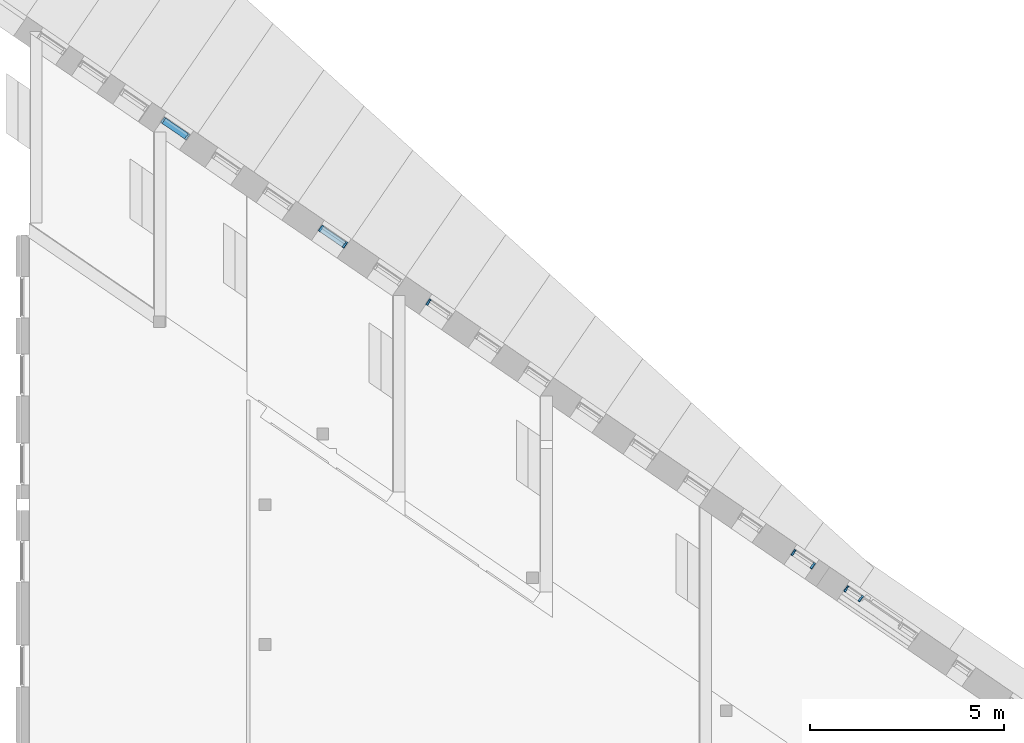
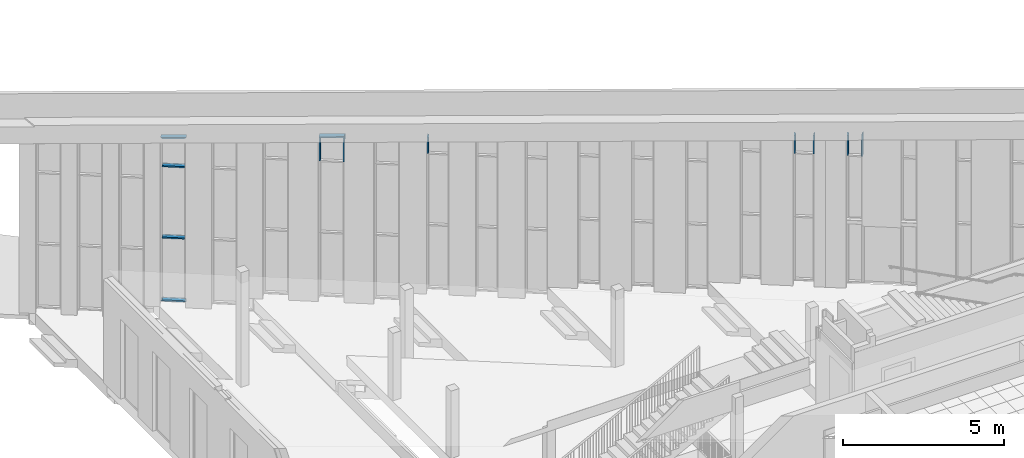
# One storey, part 30 of 79: 13 members, 5 elements without a shape of their own.
"""IFC2X3 building model written with IfcOpenShell, lengths in millimetres."""

from ifc_helpers import new_model, entity, si_unit, converted_unit, derived_unit, money_unit, direction, frame, origin_with_axes, place, context, subcontext, project, spatial, faceted_brep, material, type_object, element, aggregate, save


model = new_model("IFC2X3")

# Units and contexts
model_context = context("Model", 3, precision=0.01, world=origin_with_axes(), true_north=direction((0.0, 1.0)))
body_context = subcontext(model_context, "Body", "Model", "MODEL_VIEW")
ifc_project = project(units=[si_unit("LENGTHUNIT", "METRE", prefix="MILLI"), si_unit("AREAUNIT", "SQUARE_METRE"), si_unit("VOLUMEUNIT", "CUBIC_METRE"), converted_unit("PLANEANGLEUNIT", "DEGREE", entity("IfcPlaneAngleMeasure", 0.0174532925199), si_unit("PLANEANGLEUNIT", "RADIAN"), dimensions=[0, 0, 0, 0, 0, 0, 0]), si_unit("SOLIDANGLEUNIT", "STERADIAN"), money_unit("EUR"), converted_unit("TIMEUNIT", "Year", entity("IfcTimeMeasure", 31556926.0), si_unit("TIMEUNIT", "SECOND"), dimensions=[0, 0, 1, 0, 0, 0, 0]), si_unit("MASSUNIT", "GRAM", prefix="KILO"), si_unit("THERMODYNAMICTEMPERATUREUNIT", "DEGREE_CELSIUS"), si_unit("LUMINOUSINTENSITYUNIT", "LUMEN"), si_unit("ENERGYUNIT", "JOULE", prefix="MEGA"), derived_unit("THERMALCONDUCTANCEUNIT", [(si_unit("POWERUNIT", "WATT"), 1), (si_unit("LENGTHUNIT", "METRE"), -1), (si_unit("THERMODYNAMICTEMPERATUREUNIT", "KELVIN"), -1)]), derived_unit("SPECIFICHEATCAPACITYUNIT", [(si_unit("ENERGYUNIT", "JOULE"), 1), (si_unit("MASSUNIT", "GRAM", prefix="KILO"), -1), (si_unit("THERMODYNAMICTEMPERATUREUNIT", "KELVIN"), -1)]), derived_unit("MASSDENSITYUNIT", [(si_unit("MASSUNIT", "GRAM", prefix="KILO"), 1), (si_unit("VOLUMEUNIT", "CUBIC_METRE"), -1)])], contexts=[model_context])

# Site, building, storey
site_placement = place(None, origin_with_axes())
site = spatial("IfcSite", under=ifc_project, at=site_placement, Name="L.Koidula tn 11b", CompositionType="ELEMENT")
building_placement = place(site_placement, origin_with_axes())
building = spatial("IfcBuilding", under=site, at=building_placement, Name="Rakvere Riigigümnaasium", CompositionType="ELEMENT")
storey_placement = place(building_placement, frame((0.0, 0.0, 3720.0), z_axis=(0.0, 0.0, 1.0), x_axis=(1.0, 0.0, 0.0)))
storey = spatial("IfcBuildingStorey", under=building, at=storey_placement, Name="2.korrus +3,72", CompositionType="ELEMENT", Elevation=3720.0)

# Curtain wall, members
curtain_wall_type = type_object("IfcCurtainWallType", Name="Curtain Wall Type", PredefinedType="NOTDEFINED")
curtain_wall_1_placement = place(storey_placement, frame((61972.2494244, 33972.9766299, -1395.00007094), z_axis=(0.0, 0.0, 1.0), x_axis=(1.0, 0.0, 0.0)))
curtain_wall_1 = element("IfcCurtainWall", 1, at=curtain_wall_1_placement, inside=storey, type_object=curtain_wall_type, Name="KLF-06-18")
ifc_material = material(Name="Alumiiniumprofiil (RAL 7021)")
member_type_1 = type_object("IfcMemberType", Name="Transom Frame 50 x 170", PredefinedType="MULLION")
member_1_placement = place(curtain_wall_1_placement, frame((-329.847602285, 226.234905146, 5100.00015279), z_axis=(0.824666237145, -0.565619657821, 0.0), x_axis=(0.0, 0.0, 1.0)))
member_1 = element("IfcMember", 2, at=member_1_placement, type_object=member_type_1, material=ifc_material, Name="KLF-06-18-Profiilid", ObjectType="MULLION", context=body_context, shape_type="Brep", body=[
    faceted_brep([(-12.0, 26.0, 749.969428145), (-12.0, -26.0, 749.96942883), (-25.0, -26.0, 749.96942883), (-25.0, -46.0, 749.969429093), (25.0, -46.0, 749.969429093), (25.0, -26.0, 749.96942883), (12.0, -26.0, 749.96942883), (12.0, 26.0, 749.969428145), (25.0, 26.0, 749.969428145), (25.0, 124.0, 749.969426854), (-25.0, 124.0, 749.969426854), (-25.0, 26.0, 749.969428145), (-12.0, 26.0, 50.0007288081), (-12.0, -26.0, 49.9992712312), (-25.0, -26.0, 49.9992712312), (-25.0, -46.0, 49.9987106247), (25.0, -46.0, 49.9987106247), (25.0, -26.0, 49.9992712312), (12.0, -26.0, 49.9992712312), (12.0, 26.0, 50.0007288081), (25.0, 26.0, 50.0007288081), (25.0, 124.0, 50.00347578), (-25.0, 124.0, 50.00347578), (-25.0, 26.0, 50.0007288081)], [[[0, 1, 2, 3, 4, 5, 6, 7, 8, 9, 10, 11]], [[0, 12, 13, 1]], [[1, 13, 14, 2]], [[14, 15, 3, 2]], [[4, 3, 15, 16]], [[17, 5, 4, 16]], [[5, 17, 18, 6]], [[7, 6, 18, 19]], [[8, 7, 19, 20]], [[8, 20, 21, 9]], [[10, 9, 21, 22]], [[11, 10, 22, 23]], [[11, 23, 12, 0]], [[13, 12, 23, 22, 21, 20, 19, 18, 17, 16, 15, 14]]]),
])
member_2_placement = place(curtain_wall_1_placement, frame((-329.768893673, 226.180920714, 2400.00015279), z_axis=(0.824666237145, -0.565619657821, 0.0), x_axis=(0.0, 0.0, 1.0)))
member_2 = element("IfcMember", 3, at=member_2_placement, type_object=member_type_1, material=ifc_material, Name="KLF-06-18-Profiilid", ObjectType="MULLION", context=body_context, shape_type="Brep", body=[
    faceted_brep([(-12.0, 26.0, 749.873849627), (-12.0, -26.0, 749.873852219), (-25.0, -26.0, 749.873852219), (-25.0, -46.0, 749.873853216), (25.0, -46.0, 749.873853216), (25.0, -26.0, 749.873852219), (12.0, -26.0, 749.873852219), (12.0, 26.0, 749.873849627), (25.0, 26.0, 749.873849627), (25.0, 124.0, 749.873844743), (-25.0, 124.0, 749.873844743), (-25.0, 26.0, 749.873849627), (-12.0, 26.0, 50.0009191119), (-12.0, -26.0, 49.9990809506), (-25.0, -26.0, 49.9990809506), (-25.0, -46.0, 49.9983739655), (25.0, -46.0, 49.9983739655), (25.0, -26.0, 49.9990809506), (12.0, -26.0, 49.9990809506), (12.0, 26.0, 50.0009191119), (25.0, 26.0, 50.0009191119), (25.0, 124.0, 50.0043833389), (-25.0, 124.0, 50.0043833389), (-25.0, 26.0, 50.0009191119)], [[[0, 1, 2, 3, 4, 5, 6, 7, 8, 9, 10, 11]], [[0, 12, 13, 1]], [[1, 13, 14, 2]], [[14, 15, 3, 2]], [[4, 3, 15, 16]], [[17, 5, 4, 16]], [[5, 17, 18, 6]], [[7, 6, 18, 19]], [[8, 7, 19, 20]], [[8, 20, 21, 9]], [[10, 9, 21, 22]], [[11, 10, 22, 23]], [[11, 23, 12, 0]], [[13, 12, 23, 22, 21, 20, 19, 18, 17, 16, 15, 14]]]),
])
member_type_2 = type_object("IfcMemberType", Name="Boundary Frame 50 x 170", PredefinedType="MULLION")
member_3_placement = place(curtain_wall_1_placement, frame((-329.703060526, 226.135767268, 0.0), z_axis=(0.824666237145, -0.565619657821, 0.0), x_axis=(0.0, 0.0, 1.0)))
member_3 = element("IfcMember", 4, at=member_3_placement, type_object=member_type_2, material=ifc_material, Name="KLF-06-27-Profiilid", ObjectType="MULLION", context=body_context, shape_type="Brep", body=[
    faceted_brep([(37.0, 26.0, 762.794020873), (50.0, 26.0, 749.794020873), (50.0, 124.0, 749.794020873), (0.0, 124.0, 799.794020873), (0.0, -46.0, 799.794020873), (50.0, -46.0, 749.794020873), (50.0, -26.0, 749.794020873), (37.0, -26.0, 762.794020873), (37.0, 26.0, 36.9987693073), (50.0, 26.0, 49.9983369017), (50.0, 124.0, 49.9983369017), (0.0, 124.0, 0.0), (0.0, -46.0, 0.0), (50.0, -46.0, 49.9983369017), (50.0, -26.0, 49.9983369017), (37.0, -26.0, 36.9987693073)], [[[0, 1, 2, 3, 4, 5, 6, 7]], [[0, 8, 9, 1]], [[9, 10, 2, 1]], [[2, 10, 11, 3]], [[3, 11, 12, 4]], [[4, 12, 13, 5]], [[6, 5, 13, 14]], [[14, 15, 7, 6]], [[7, 15, 8, 0]], [[8, 15, 14, 13, 12, 11, 10, 9]]]),
])
member_4_placement = place(curtain_wall_1_placement, frame((329.86018845, -226.243537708, 6233.62446743), z_axis=(-0.823354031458, 0.564719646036, -0.0563902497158), x_axis=(0.0465031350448, -0.0318954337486, -0.998408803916)))
member_4 = element("IfcMember", 5, at=member_4_placement, type_object=member_type_2, material=ifc_material, Name="KLF-06-31-Profiilid", ObjectType="MULLION", context=body_context, shape_type="Brep", body=[
    faceted_brep([(37.0, 26.0, 766.304752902), (50.0, 26.0, 754.017931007), (50.0, 124.0, 754.017931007), (0.0, 124.0, 801.274938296), (0.0, -46.0, 801.274938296), (50.0, -46.0, 754.017931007), (50.0, -26.0, 754.017931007), (37.0, -26.0, 766.304752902), (37.0, 26.0, 39.1487330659), (50.0, 26.0, 52.9036933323), (50.0, 124.0, 52.9036933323), (0.0, 124.0, 0.0), (0.0, -46.0, 0.0), (50.0, -46.0, 52.9036933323), (50.0, -26.0, 52.9036933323), (37.0, -26.0, 39.1487330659)], [[[0, 1, 2, 3, 4, 5, 6, 7]], [[0, 8, 9, 1]], [[9, 10, 2, 1]], [[2, 10, 11, 3]], [[3, 11, 12, 4]], [[4, 12, 13, 5]], [[6, 5, 13, 14]], [[14, 15, 7, 6]], [[7, 15, 8, 0]], [[8, 15, 14, 13, 12, 11, 10, 9]]]),
])
aggregate(curtain_wall_1, [member_1, member_3, member_2, member_4])

curtain_wall_2_placement = place(storey_placement, frame((66033.4417184, 31187.4994723, -930.00009489), z_axis=(0.0, 0.0, 1.0), x_axis=(1.0, 0.0, 0.0)))
curtain_wall_2 = element("IfcCurtainWall", 6, at=curtain_wall_2_placement, inside=storey, type_object=curtain_wall_type, Name="KLF-06-15")
member_5_placement = place(curtain_wall_2_placement, frame((329.371256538, -225.908190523, 5100.00018486), z_axis=(-0.000147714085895, 0.000101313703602, 0.999999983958), x_axis=(-0.824666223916, 0.565619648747, -0.000179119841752)))
member_5 = element("IfcMember", 7, at=member_5_placement, type_object=member_type_2, material=ifc_material, Name="KLF-06-34-Profiilid", ObjectType="MULLION", context=body_context, shape_type="Brep", body=[
    faceted_brep([(37.0, 26.0, 793.647730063), (50.0, 26.0, 793.647578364), (50.0, 124.0, 793.638596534), (0.0, 124.0, 793.638596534), (0.0, -46.0, 793.65417726), (50.0, -46.0, 793.65417726), (50.0, -26.0, 793.652344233), (37.0, -26.0, 793.652386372), (37.0, 26.0, -0.000280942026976), (50.0, 26.0, -0.000280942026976), (50.0, 124.0, -0.000280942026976), (0.0, 124.0, -0.000280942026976), (0.0, -46.0, -0.000280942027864), (50.0, -46.0, -0.000280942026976), (50.0, -26.0, -0.000280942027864), (37.0, -26.0, -0.000280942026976)], [[[0, 1, 2, 3, 4, 5, 6, 7]], [[0, 8, 9, 1]], [[9, 10, 2, 1]], [[10, 11, 3, 2]], [[3, 11, 12, 4]], [[12, 13, 5, 4]], [[6, 5, 13, 14]], [[14, 15, 7, 6]], [[7, 15, 8, 0]], [[8, 15, 14, 13, 12, 11, 10, 9]]]),
])
member_6_placement = place(curtain_wall_2_placement, frame((-329.583181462, 226.053544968, 5100.00018486), z_axis=(0.0, 0.0, 1.0), x_axis=(-0.824666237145, 0.565619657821, 0.0)))
member_6 = element("IfcMember", 8, at=member_6_placement, type_object=member_type_2, material=ifc_material, Name="KLF-06-36-Profiilid", ObjectType="MULLION", context=body_context, shape_type="Brep", body=[
    faceted_brep([(-37.0, 26.0, 881.298915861), (-37.0, -26.0, 881.298915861), (-50.0, -26.0, 869.048648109), (-50.0, -46.0, 869.048648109), (0.0, -46.0, 916.165062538), (0.0, 124.0, 916.165062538), (-50.0, 124.0, 869.048648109), (-50.0, 26.0, 869.048648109), (-37.0, 26.0, 0.0), (-37.0, -26.0, 0.0), (-50.0, -26.0, 0.0), (-50.0, -46.0, 0.0), (0.0, -46.0, 0.0), (0.0, 124.0, 0.0), (-50.0, 124.0, 0.0), (-50.0, 26.0, 0.0)], [[[0, 1, 2, 3, 4, 5, 6, 7]], [[1, 0, 8, 9]], [[10, 2, 1, 9]], [[2, 10, 11, 3]], [[12, 4, 3, 11]], [[13, 5, 4, 12]], [[14, 6, 5, 13]], [[15, 7, 6, 14]], [[0, 7, 15, 8]], [[8, 15, 14, 13, 12, 11, 10, 9]]]),
])
member_7_placement = place(curtain_wall_2_placement, frame((329.254018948, -225.827779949, 6063.64988732), z_axis=(-0.823213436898, 0.564623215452, -0.0593317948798), x_axis=(0.0489289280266, -0.0335592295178, -0.998238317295)))
member_7 = element("IfcMember", 9, at=member_7_placement, type_object=member_type_2, material=ifc_material, Name="KLF-06-35-Profiilid", ObjectType="MULLION", context=body_context, shape_type="Brep", body=[
    faceted_brep([(37.0, 26.0, 765.457525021), (50.0, 26.0, 753.20725727), (50.0, 124.0, 753.20725727), (0.0, 124.0, 800.323671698), (0.0, -46.0, 800.323671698), (50.0, -46.0, 753.20725727), (50.0, -26.0, 753.20725727), (37.0, -26.0, 765.457525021), (37.0, 26.0, 39.2644466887), (50.0, 26.0, 53.0600630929), (50.0, 124.0, 53.0600630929), (0.0, 124.0, 0.0), (0.0, -46.0, 0.0), (50.0, -46.0, 53.0600630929), (50.0, -26.0, 53.0600630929), (37.0, -26.0, 39.2644466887)], [[[0, 1, 2, 3, 4, 5, 6, 7]], [[0, 8, 9, 1]], [[9, 10, 2, 1]], [[2, 10, 11, 3]], [[3, 11, 12, 4]], [[4, 12, 13, 5]], [[6, 5, 13, 14]], [[14, 15, 7, 6]], [[7, 15, 8, 0]], [[8, 15, 14, 13, 12, 11, 10, 9]]]),
])
member_8_placement = place(curtain_wall_2_placement, frame((329.254023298, -225.827782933, 5893.64987216), z_axis=(-2.55911556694e-08, 1.75523684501e-08, 1.0), x_axis=(-0.824666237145, 0.565619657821, -3.10321266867e-08)))
member_8 = element("IfcMember", 10, at=member_8_placement, type_object=member_type_2, material=ifc_material, Name="KLF-06-34-Profiilid", ObjectType="MULLION", context=body_context, shape_type="Brep", body=[
    faceted_brep([(36.999995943, 26.0, 130.735569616), (49.9999963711, 26.0, 116.939953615), (49.9999963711, 124.0, 116.939953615), (-5.27546717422e-06, 124.0, 170.000015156), (-5.27546717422e-06, -46.0, 170.000015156), (49.9999963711, -46.0, 116.939953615), (49.9999963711, -26.0, 116.939953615), (36.999995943, -26.0, 130.735569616), (36.9999999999, 26.0, 0.00197112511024), (49.9999999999, 26.0, 0.00212322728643), (49.9999999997, 124.0, 0.0111050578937), (-3.48165940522e-10, 124.0, 0.0111035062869), (1.35003119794e-10, -46.0, -0.0044772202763), (50.0000000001, -46.0, -0.00447566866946), (50.0000000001, -26.0, -0.00264264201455), (37.0000000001, -26.0, -0.00268518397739)], [[[0, 1, 2, 3, 4, 5, 6, 7]], [[0, 8, 9, 1]], [[9, 10, 2, 1]], [[2, 10, 11, 3]], [[11, 12, 4, 3]], [[12, 13, 5, 4]], [[6, 5, 13, 14]], [[14, 15, 7, 6]], [[7, 15, 8, 0]], [[8, 15, 14, 13, 12, 11, 10, 9]]]),
])
aggregate(curtain_wall_2, [member_5, member_6, member_7, member_8])

# Curtain wall, member
curtain_wall_3_placement = place(storey_placement, frame((68763.037451, 29315.3232528, -465.000107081), z_axis=(0.0, 0.0, 1.0), x_axis=(1.0, 0.0, 0.0)))
curtain_wall_3 = element("IfcCurtainWall", 11, at=curtain_wall_3_placement, inside=storey, type_object=curtain_wall_type, Name="KLF-06-13")
member_9_placement = place(curtain_wall_3_placement, frame((-288.633184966, 197.966881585, 5750.84820165), z_axis=(-3.31375165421e-08, 2.27282550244e-08, -1.0), x_axis=(0.824666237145, -0.565619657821, -4.01829389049e-08)))
member_9 = element("IfcMember", 12, at=member_9_placement, type_object=member_type_2, material=ifc_material, Name="KLF-06-35-Profiilid", ObjectType="MULLION", context=body_context, shape_type="Brep", body=[
    faceted_brep([(37.000026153, 26.0, 650.848029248), (50.000026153, 26.0, 650.848028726), (50.000026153, 124.0, 650.848028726), (2.61529891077e-05, 124.0, 650.848030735), (2.61529891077e-05, -46.0, 650.848030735), (50.000026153, -46.0, 650.848028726), (50.000026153, -26.0, 650.848028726), (37.000026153, -26.0, 650.848029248), (37.000001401, 26.0, 34.8661441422), (50.0000018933, 26.0, 47.116411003), (50.0000018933, 124.0, 47.116411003), (0.0, 124.0, 0.0), (0.0, -46.0, 0.0), (50.0000018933, -46.0, 47.116411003), (50.0000018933, -26.0, 47.116411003), (37.000001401, -26.0, 34.8661441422)], [[[0, 1, 2, 3, 4, 5, 6, 7]], [[0, 8, 9, 1]], [[9, 10, 2, 1]], [[2, 10, 11, 3]], [[3, 11, 12, 4]], [[4, 12, 13, 5]], [[6, 5, 13, 14]], [[14, 15, 7, 6]], [[7, 15, 8, 0]], [[8, 15, 14, 13, 12, 11, 10, 9]]]),
])
aggregate(curtain_wall_3, [member_9])

# Curtain wall, members
curtain_wall_4_placement = place(storey_placement, frame((78143.5902424, 22881.4219802, 465.0), z_axis=(0.0, 0.0, 1.0), x_axis=(1.0, 0.0, 0.0)))
curtain_wall_4 = element("IfcCurtainWall", 13, at=curtain_wall_4_placement, inside=storey, type_object=curtain_wall_type, Name="KLF-06-06")
member_10_placement = place(curtain_wall_4_placement, frame((-268.016299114, 183.826232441, 5498.42226741), z_axis=(-4.11264118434e-07, 2.82076636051e-07, -1.0), x_axis=(0.824666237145, -0.565619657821, -4.98703723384e-07)))
member_10 = element("IfcMember", 14, at=member_10_placement, type_object=member_type_2, material=ifc_material, Name="KLF-06-20-Profiilid", ObjectType="MULLION", context=body_context, shape_type="Brep", body=[
    faceted_brep([(37.0003483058, 26.0, 698.422196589), (50.0003483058, 26.0, 698.422190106), (50.0003483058, 124.0, 698.422190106), (0.000348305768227, 124.0, 698.422215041), (0.000348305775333, -46.0, 698.422215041), (50.0003483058, -46.0, 698.422190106), (50.0003483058, -26.0, 698.422190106), (37.0003483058, -26.0, 698.422196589), (37.0000173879, 26.0, 34.8661135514), (50.0000234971, 26.0, 47.1163696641), (50.0000234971, 124.0, 47.1163696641), (0.0, 124.0, 0.0), (0.0, -46.0, 0.0), (50.0000234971, -46.0, 47.1163696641), (50.0000234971, -26.0, 47.1163696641), (37.0000173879, -26.0, 34.8661135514)], [[[0, 1, 2, 3, 4, 5, 6, 7]], [[0, 8, 9, 1]], [[9, 10, 2, 1]], [[2, 10, 11, 3]], [[3, 11, 12, 4]], [[4, 12, 13, 5]], [[6, 5, 13, 14]], [[14, 15, 7, 6]], [[7, 15, 8, 0]], [[8, 15, 14, 13, 12, 11, 10, 9]]]),
])
member_11_placement = place(curtain_wall_4_placement, frame((268.016718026, -183.826519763, 4800.00006484), z_axis=(0.0, 0.0, 1.0), x_axis=(-0.824666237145, 0.565619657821, 0.0)))
member_11 = element("IfcMember", 15, at=member_11_placement, type_object=member_type_2, material=ifc_material, Name="KLF-06-18-Profiilid", ObjectType="MULLION", context=body_context, shape_type="Brep", body=[
    faceted_brep([(37.0, 26.0, 697.791430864), (50.0, 26.0, 683.995815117), (50.0, 124.0, 683.995815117), (0.0, 124.0, 737.055875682), (0.0, -46.0, 737.055875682), (50.0, -46.0, 683.995815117), (50.0, -26.0, 683.995815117), (37.0, -26.0, 697.791430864), (37.0, 26.0, -3.32648575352e-06), (50.0, 26.0, -3.32648575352e-06), (50.0, 124.0, -3.32648575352e-06), (0.0, 124.0, -3.32648575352e-06), (0.0, -46.0, -3.32648575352e-06), (50.0, -46.0, -3.32648575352e-06), (50.0, -26.0, -3.32648575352e-06), (37.0, -26.0, -3.32648575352e-06)], [[[0, 1, 2, 3, 4, 5, 6, 7]], [[0, 8, 9, 1]], [[9, 10, 2, 1]], [[10, 11, 3, 2]], [[11, 12, 4, 3]], [[12, 13, 5, 4]], [[6, 5, 13, 14]], [[14, 15, 7, 6]], [[7, 15, 8, 0]], [[8, 15, 14, 13, 12, 11, 10, 9]]]),
])
aggregate(curtain_wall_4, [member_10, member_11])

curtain_wall_5_placement = place(storey_placement, frame((79442.2672738, 21990.3699919, 464.999974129), z_axis=(0.0, 0.0, 1.0), x_axis=(1.0, 0.0, 0.0)))
curtain_wall_5 = element("IfcCurtainWall", 16, at=curtain_wall_5_placement, inside=storey, type_object=curtain_wall_type, Name="KLF-06-05")
member_12_placement = place(curtain_wall_5_placement, frame((-206.166589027, 141.404934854, 5596.49077948), z_axis=(2.0823878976e-07, -1.42826210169e-07, -1.0), x_axis=(0.824666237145, -0.565619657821, 2.52512811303e-07)))
member_12 = element("IfcMember", 17, at=member_12_placement, type_object=member_type_2, material=ifc_material, Name="KLF-06-19-Profiilid", ObjectType="MULLION", context=body_context, shape_type="Brep", body=[
    faceted_brep([(36.9997988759, 26.0, 796.490704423), (49.9997988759, 26.0, 796.490707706), (49.9997988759, 124.0, 796.490707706), (-0.000201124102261, 124.0, 796.49069508), (-0.000201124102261, -46.0, 796.49069508), (49.9997988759, -46.0, 796.490707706), (49.9997988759, -26.0, 796.490707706), (36.9997988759, -26.0, 796.490704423), (36.9999911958, 26.0, 34.8661673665), (49.9999881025, 26.0, 47.1164423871), (49.9999881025, 124.0, 47.1164423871), (0.0, 124.0, 0.0), (0.0, -46.0, 0.0), (49.9999881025, -46.0, 47.1164423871), (49.9999881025, -26.0, 47.1164423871), (36.9999911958, -26.0, 34.8661673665)], [[[0, 1, 2, 3, 4, 5, 6, 7]], [[0, 8, 9, 1]], [[9, 10, 2, 1]], [[2, 10, 11, 3]], [[3, 11, 12, 4]], [[4, 12, 13, 5]], [[6, 5, 13, 14]], [[14, 15, 7, 6]], [[7, 15, 8, 0]], [[8, 15, 14, 13, 12, 11, 10, 9]]]),
])
member_13_placement = place(curtain_wall_5_placement, frame((206.166553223, -141.404910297, 4800.00009071), z_axis=(-1.14078617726e-07, 7.82439048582e-08, 1.0), x_axis=(-0.824666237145, 0.565619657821, -1.38333075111e-07)))
member_13 = element("IfcMember", 18, at=member_13_placement, type_object=member_type_2, material=ifc_material, Name="KLF-06-17-Profiilid", ObjectType="MULLION", context=body_context, shape_type="Brep", body=[
    faceted_brep([(36.9998911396, 26.0, 786.944464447), (49.9998930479, 26.0, 773.148852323), (49.9998930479, 124.0, 773.148852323), (-0.000114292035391, 124.0, 826.208898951), (-0.000114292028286, -46.0, 826.208898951), (49.9998930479, -46.0, 773.148852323), (49.9998930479, -26.0, 773.148852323), (36.9998911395, -26.0, 786.944464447), (37.0, 26.0, 1.59309010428e-07), (50.0, 26.0, 1.95763938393e-06), (50.0, 124.0, 1.95763938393e-06), (0.0, 124.0, -4.95901453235e-06), (0.0, -46.0, -4.95901453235e-06), (50.0, -46.0, 1.95763938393e-06), (50.0, -26.0, 1.95763938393e-06), (37.0, -26.0, 1.59309010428e-07)], [[[0, 1, 2, 3, 4, 5, 6, 7]], [[0, 8, 9, 1]], [[9, 10, 2, 1]], [[10, 11, 3, 2]], [[11, 12, 4, 3]], [[12, 13, 5, 4]], [[6, 5, 13, 14]], [[14, 15, 7, 6]], [[7, 15, 8, 0]], [[8, 15, 14, 13, 12, 11, 10, 9]]]),
])
aggregate(curtain_wall_5, [member_12, member_13])

save(model, "model.ifc")
